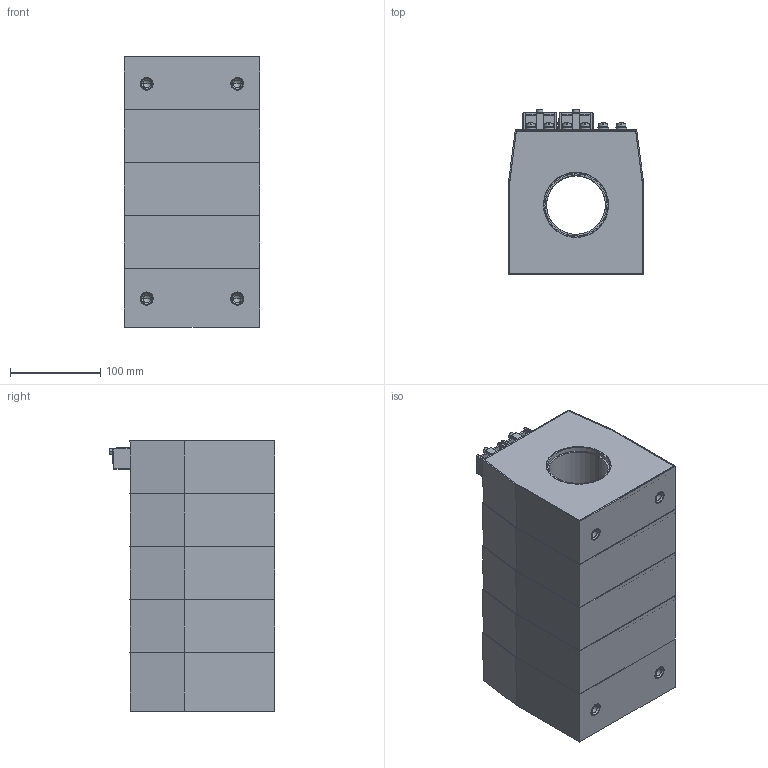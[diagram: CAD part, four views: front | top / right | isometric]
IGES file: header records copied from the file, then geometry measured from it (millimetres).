
Start section: IGES file generated from Kompas f.0 for Windows drawing by the IGES translator from Ascon Ltd., translator version IGESOUT-5.1.
Global section: file name: C:\Ðàáîòà\Èçâåùåíèÿ 5\ÒØÏ-ÍÒÇ-0.66-61...,71...,81... (ñáîðíûé)\Âåðñèÿ îò 21.05.24\3D ìîäåëü\ÒØÏ-ÍÒÇ-0,66-85À\ÒØÏ-ÍÒÇ-0,66-85À (65 ìì, 5-é ãàáàðèò).igs; native system: Kompas( 32 bit ) for Windows; preprocessor: 1.0; author: 123; organization: Microsoft; date: -17750727:094237; units: millimetre
Bounding box: 150 x 182.93 x 299 mm (x, y, z)
Volume: 967445.1 mm3; surface area: 662544.2 mm2
Topology: 45 solids, 45 shells, 961 faces, 2263 edges, 1407 vertices
Faces by surface type: revolution 528, bspline 433
